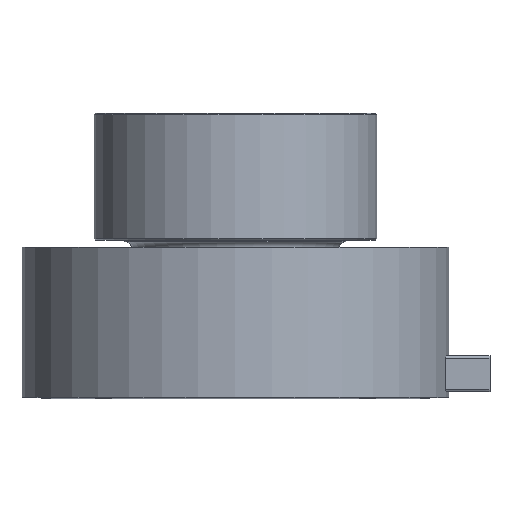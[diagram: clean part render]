
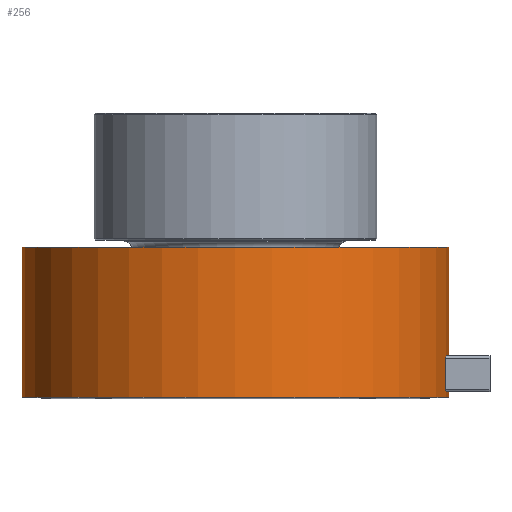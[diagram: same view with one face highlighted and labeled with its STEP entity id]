
A CAD part, front view. The second image highlights one B-rep face of the part: STEP entity #256.
In plain terms, the highlighted cylindrical face has radius 149.5 mm (diameter 299 mm), a partial arc.
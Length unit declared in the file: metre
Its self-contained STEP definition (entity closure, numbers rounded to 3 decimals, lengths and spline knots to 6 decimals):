
#256=ADVANCED_FACE('0:140',(#501),#502,.T.);
#501=FACE_OUTER_BOUND('',#785,.T.);
#502=CYLINDRICAL_SURFACE('',#786,0.1495);
#785=EDGE_LOOP('',(#1172,#1173,#1174,#1175));
#786=AXIS2_PLACEMENT_3D('',#1176,#1177,#1178);
#1172=ORIENTED_EDGE('',*,*,#1785,.F.);
#1173=ORIENTED_EDGE('',*,*,#1786,.F.);
#1174=ORIENTED_EDGE('',*,*,#1787,.F.);
#1175=ORIENTED_EDGE('',*,*,#1788,.T.);
#1176=CARTESIAN_POINT('',(0.0,0.003,0.0));
#1177=DIRECTION('',(0.0,-1.0,-0.0));
#1178=DIRECTION('',(0.0,0.0,-1.0));
#1785=EDGE_CURVE('',#2110,#2111,#2112,.T.);
#1786=EDGE_CURVE('0:241',#2113,#2110,#2114,.T.);
#1787=EDGE_CURVE('',#2115,#2113,#2116,.T.);
#1788=EDGE_CURVE('0:256',#2115,#2111,#2117,.T.);
#2110=VERTEX_POINT('',#2527);
#2111=VERTEX_POINT('',#2528);
#2112=LINE('',#2529,#2530);
#2113=VERTEX_POINT('',#2531);
#2114=CIRCLE('',#2532,0.1495);
#2115=VERTEX_POINT('NONE',#2533);
#2116=LINE('',#2534,#2535);
#2117=CIRCLE('',#2536,0.1495);
#2527=CARTESIAN_POINT('',(0.,0.001205,-0.1495));
#2528=CARTESIAN_POINT('',(0.,0.106,-0.1495));
#2529=CARTESIAN_POINT('',(0.,0.003,-0.1495));
#2530=VECTOR('',#3346,1.0);
#2531=CARTESIAN_POINT('',(0.,0.001205,0.1495));
#2532=AXIS2_PLACEMENT_3D('',#3347,#3348,#3349);
#2533=CARTESIAN_POINT('',(0.,0.106,0.1495));
#2534=CARTESIAN_POINT('',(0.,0.003,0.1495));
#2535=VECTOR('',#3350,1.0);
#2536=AXIS2_PLACEMENT_3D('',#3351,#3352,#3353);
#3346=DIRECTION('',(-0.0,1.0,-0.0));
#3347=CARTESIAN_POINT('',(0.0,0.001205,0.0));
#3348=DIRECTION('',(0.0,-1.0,0.0));
#3349=DIRECTION('',(0.0,0.0,-1.0));
#3350=DIRECTION('',(-0.0,-1.0,-0.0));
#3351=CARTESIAN_POINT('',(0.0,0.106,0.0));
#3352=DIRECTION('',(0.0,-1.0,0.0));
#3353=DIRECTION('',(0.0,0.0,-1.0));
